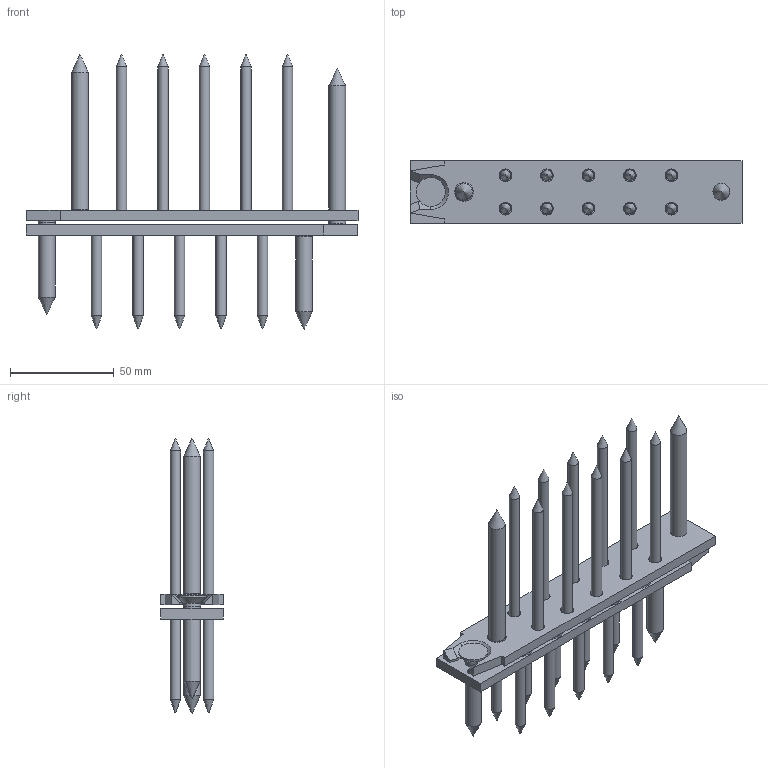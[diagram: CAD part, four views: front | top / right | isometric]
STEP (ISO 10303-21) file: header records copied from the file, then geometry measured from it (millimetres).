
FILE_DESCRIPTION(/* description */ ('Unknown'),/* implementation_level */ '2;1');
FILE_NAME(/* name */ 'RICON Edelstahl_160x30_EA',/* time_stamp */ '2022-02-08T10:05:33+01:00',/* author */ ('Unknown'),/* organization */ ('Unknown'),/* preprocessor_version */ 'ST-DEVELOPER v16.7',/* originating_system */ 'Solid Edge',/* authorisation */ 'Unknown');
FILE_SCHEMA (('AUTOMOTIVE_DESIGN {1 0 10303 214 3 1 1}'));
Length unit declared in the file: millimetre
Products named in the file (6): RICON_30x160_zusammenbau_mit Fase; RICON_30x160_mit Fase; SK_Schraube_5x50; SK_Schraube_8x50; SK_Schraube_5x80; SK_Schraube_8x80
Assembly tree (26 placements, depth 2):
  RICON_30x160_zusammenbau_mit Fase
    RICON_30x160_mit Fase  x2
    SK_Schraube_5x50  x10
    SK_Schraube_8x50  x2
    SK_Schraube_5x80  x10
    SK_Schraube_8x80  x2
Bounding box: 160 x 30 x 132.5 mm (x, y, z)
Volume: 77100.1 mm3; surface area: 51989.9 mm2
Topology: 26 solids, 26 shells, 276 faces, 552 edges, 348 vertices
Faces by surface type: plane 106, cylinder 98, cone 72
Full cylindrical faces by diameter (mm): 5 x20, 6 x20, 6.2 x20, 8 x6, 8.3 x4, 9.1 x2, 10 x10, 10.2 x10, 14 x4
Entity records: 2136 total; most frequent: DIRECTION 380, CARTESIAN_POINT 312, ORIENTED_EDGE 228, AXIS2_PLACEMENT_3D 165, FACE_BOUND 145, EDGE_LOOP 143, EDGE_CURVE 114, VERTEX_POINT 97
